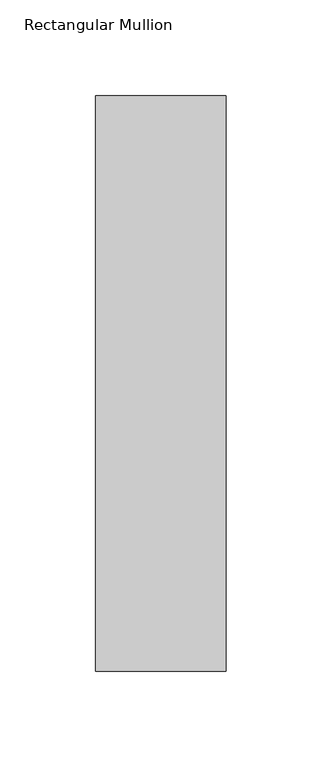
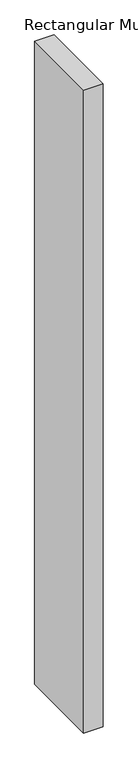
"""IFC4 building model written with IfcOpenShell, lengths in millimetres: member geometry, Rectangular Mullion : DucoSun Cubic Design louvre 300."""

from ifc_helpers import new_model, si_unit, frame, origin, place, context, project, spatial, polyline, outline, extrude, source, transform, mapped, element, save


def rectangular_mullion_12068f87(model_context):
    return source(origin(), model_context, "Body", "SweptSolid", [
        extrude(outline(polyline([(0.0, 300.0), (0.0, 0.0), (-68.0, 0.0), (-68.0, 300.0), (0.0, 300.0)])), frame((0.0, 0.0, -2400.0), z_axis=(0.0, 0.0, 1.0), x_axis=(1.0, 0.0, 0.0)), (0.0, 0.0, 1.0), 2400.0),
    ])


if __name__ == "__main__":
    model = new_model("IFC4")
    model_context = context("Model", 3, world=origin())
    ifc_project = project(units=[si_unit("LENGTHUNIT", "METRE", prefix="MILLI")], contexts=[model_context])
    site = spatial("IfcSite", under=ifc_project)
    building = spatial("IfcBuilding", under=site)
    placement = place(None, origin())
    rectangular_mullion_shape = rectangular_mullion_12068f87(model_context)
    element("IfcMember", 1, ObjectType="Rectangular Mullion : DucoSun Cubic Design louvre 300", at=placement, inside=building, context=model_context, shape_type="MappedRepresentation", body=[
        mapped(rectangular_mullion_shape, transform((0.0, 0.0, 0.0), x_axis=(1.0, 0.0, 0.0), y_axis=(0.0, 1.0, 0.0), z_axis=(0.0, 0.0, 1.0))),
    ])
    save(model, "model.ifc")
